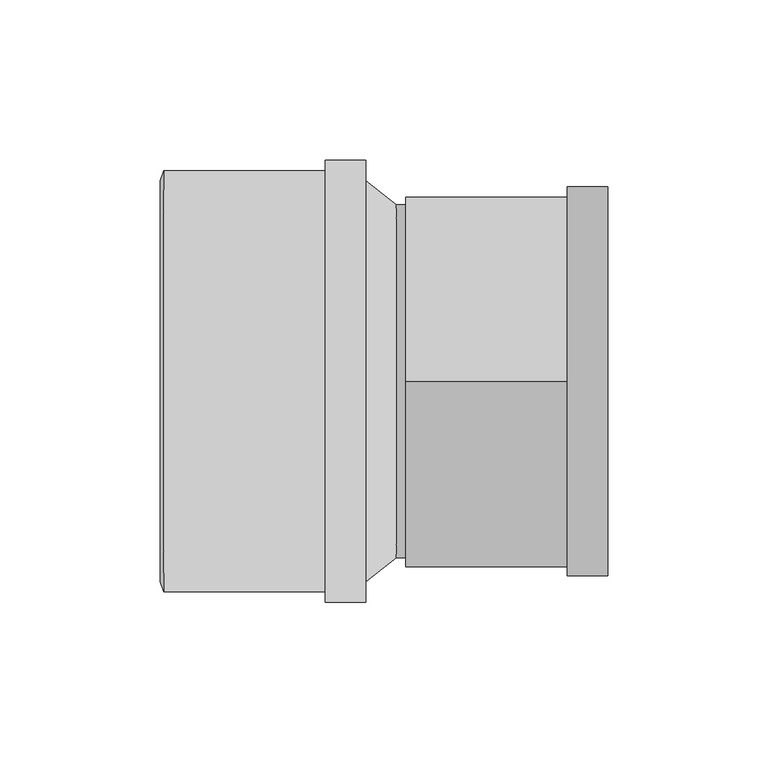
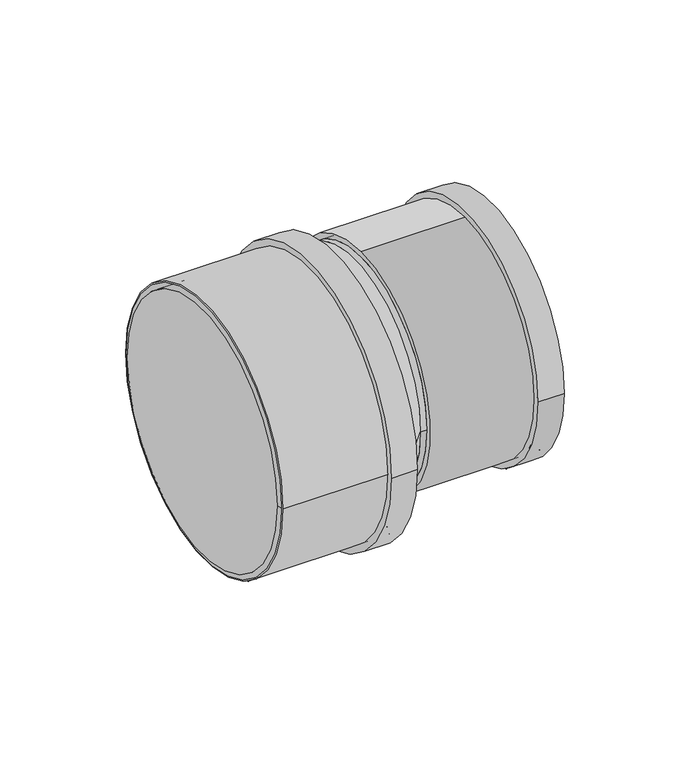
"""IFC4 building model written with IfcOpenShell, lengths in millimetres: pipe fitting geometry, Superdrain HTR-Reducer : Superdrain HTR-Reducer."""

from ifc_helpers import new_model, si_unit, point, frame, frame_2d, origin, origin_2d, place, context, project, spatial, polyline, circle_curve, trimmed, segment, composite_curve, outline, extrude, source, transform, mapped, element, save
from ifc_brep_helpers import plane_surface, revolved_surface, spline_surface, advanced_brep


def pipe_fitting_93a60349(model_context):
    return source(origin(), model_context, "Body", "SolidModel", [
        extrude(outline(composite_curve([segment(trimmed(circle_curve(frame_2d((0.0, 0.1450234)), 65.625), [point((65.625, 0.1450234))], [point((-65.625, 0.1450234))], False, "CARTESIAN"), True, "CONTINUOUS"), segment(trimmed(circle_curve(frame_2d((0.0, 0.1450234)), 65.625), [point((-65.625, 0.1450234))], [point((65.625, 0.1450234))], False, "CARTESIAN"), True, "CONTINUOUS")], self_intersect=False), holes=[composite_curve([segment(trimmed(circle_curve(frame_2d((0.0, 0.1450234)), 62.5), [point((62.5, 0.1450234))], [point((-62.5, 0.1450234))], True, "CARTESIAN"), True, "CONTINUOUS"), segment(trimmed(circle_curve(frame_2d((0.0, 0.1450234)), 62.5), [point((-62.5, 0.1450234))], [point((62.5, 0.1450234))], True, "CARTESIAN"), True, "CONTINUOUS")], self_intersect=False)]), frame((-63.0, 0.0, 0.0), z_axis=(1.0, 0.0, 0.0), x_axis=(0.0, 1.0, 0.0)), (0.0, 0.0, 1.0), 63.0),
        extrude(outline(composite_curve([segment(trimmed(circle_curve(frame_2d((0.0, 0.1450234)), 68.90625), [point((68.90625, 0.1450234))], [point((-68.90625, 0.1450234))], False, "CARTESIAN"), True, "CONTINUOUS"), segment(trimmed(circle_curve(frame_2d((0.0, 0.1450234)), 68.90625), [point((-68.90625, 0.1450234))], [point((68.90625, 0.1450234))], False, "CARTESIAN"), True, "CONTINUOUS")], self_intersect=False), holes=[composite_curve([segment(trimmed(circle_curve(frame_2d((0.0, 0.1450234)), 62.5), [point((62.5, 0.1450234))], [point((-62.5, 0.1450234))], True, "CARTESIAN"), True, "CONTINUOUS"), segment(trimmed(circle_curve(frame_2d((0.0, 0.1450234)), 62.5), [point((-62.5, 0.1450234))], [point((62.5, 0.1450234))], True, "CARTESIAN"), True, "CONTINUOUS")], self_intersect=False)]), frame((-12.6, 0.0, 0.0), z_axis=(1.0, 0.0, 0.0), x_axis=(0.0, 1.0, 0.0)), (0.0, 0.0, 1.0), 12.6),
        advanced_brep(
        [(-64.0, 62.5, 0.1450234), (-64.0, -62.5, 0.1450234), (-63.0, 65.625, 0.1450234), (-63.0, -65.625, 0.1450234)],
        [
            (0, 1, circle_curve(frame((-64.0, 0.0, 0.1450234), z_axis=(-1.0, 0.0, 0.0), x_axis=(0.0, 1.0000000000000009, 0.0)), 62.5)),
            (1, 0, circle_curve(frame((-64.0, 0.0, 0.1450234), z_axis=(-1.0, 0.0, 0.0), x_axis=(0.0, -1.0000000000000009, 0.0)), 62.5)),
            (2, 3, circle_curve(frame((-63.0, 0.0, 0.1450234), z_axis=(1.0, 0.0, 0.0), x_axis=(0.0, -1.0000000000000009, 0.0)), 65.625)),
            (3, 2, circle_curve(frame((-63.0, 0.0, 0.1450234), z_axis=(1.0, 0.0, 0.0), x_axis=(0.0, 1.0000000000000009, 0.0)), 65.625)),
            (3, 1),
            (0, 2),
        ],
        [
            plane_surface(frame((-64.0, 0.0, 0.1450234), z_axis=(-1.0, 0.0, 0.0), x_axis=(0.0, 0.0, -1.0))),
            plane_surface(frame((-63.0, 0.0, 0.1450234), z_axis=(1.0, 0.0, 0.0), x_axis=(0.0, 0.0, -1.0))),
            revolved_surface(polyline([(-64.0, 62.499999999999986, 0.1450234), (-63.0, 65.625, 0.1450234)]), (-84.0, 0.0, 0.1450234), (1.0000000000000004, 0.0, 0.0)),
            revolved_surface(polyline([(-64.0, -62.499999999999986, 0.1450234), (-63.0, -65.625, 0.1450234)]), (-84.0, 0.0, 0.1450234), (1.0000000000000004, 0.0, 0.0)),
        ],
        [
            (0, [[1, 2]]),
            (1, [[3, 4]]),
            (2, [[-4, 5, -1, 6]]),
            (3, [[-3, -6, -2, -5]]),
        ],
    ),
        advanced_brep(
        [(9.5, -55.0, 7.5), (9.5, 55.0, 7.5), (0.0, -62.5, 0.0), (0.0, 62.5, 0.0)],
        [
            (0, 1, circle_curve(frame((9.5, 0.0, 7.5), z_axis=(1.0, 0.0, 0.0), x_axis=(0.0, 1.0, 0.0)), 55.0)),
            (1, 0, circle_curve(frame((9.5, 0.0, 7.5), z_axis=(1.0, 0.0, 0.0), x_axis=(0.0, 1.0, 0.0)), 55.0)),
            (2, 3, circle_curve(frame((0.0, 0.0, 0.0), z_axis=(-1.0, 0.0, 0.0), x_axis=(0.0, 1.0, 0.0)), 62.5)),
            (3, 2, circle_curve(frame((0.0, 0.0, 0.0), z_axis=(-1.0, 0.0, 0.0), x_axis=(0.0, 1.0, 0.0)), 62.5)),
            (3, 1),
            (0, 2),
        ],
        [
            plane_surface(frame((9.5, 0.0, 7.5), z_axis=(1.0, 0.0, 0.0), x_axis=(0.0, 0.0, -1.0))),
            plane_surface(frame((0.0, 0.0, 0.0), z_axis=(-1.0, 0.0, 0.0), x_axis=(0.0, 0.0, -1.0))),
            spline_surface(2, 1, [[(0.0, -62.5, 0.0), (9.5, -55.0, 7.5)], [(0.0, -62.5, -62.5), (9.5, -55.0, -47.5)], [(0.0, 0.0, -62.5), (9.5, 0.0, -47.5)], [(0.0, 62.5, -62.5), (9.5, 55.0, -47.5)], [(0.0, 62.5, 0.0), (9.5, 55.0, 7.5)]], [3, 2, 3], [2, 2], [0.0, 1.0, 2.0], [0.0, 1.0], weights=[[1.0, 1.0], [0.7071067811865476, 0.7071067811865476], [1.0, 1.0], [0.7071067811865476, 0.7071067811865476], [1.0, 1.0]]),
            spline_surface(2, 1, [[(0.0, 62.5, 0.0), (9.5, 55.0, 7.5)], [(0.0, 62.5, 62.5), (9.5, 55.0, 62.5)], [(0.0, 0.0, 62.5), (9.5, 0.0, 62.5)], [(0.0, -62.5, 62.5), (9.5, -55.0, 62.5)], [(0.0, -62.5, 0.0), (9.5, -55.0, 7.5)]], [3, 2, 3], [2, 2], [0.0, 1.0, 2.0], [0.0, 1.0], weights=[[1.0, 1.0], [0.7071067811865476, 0.7071067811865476], [1.0, 1.0], [0.7071067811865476, 0.7071067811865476], [1.0, 1.0]]),
        ],
        [
            (0, [[1, 2]]),
            (1, [[3, 4]]),
            (2, [[-4, 5, -1, 6]]),
            (3, [[-3, -6, -2, -5]]),
        ],
    ),
        extrude(outline(composite_curve([segment(trimmed(circle_curve(frame_2d((0.0, 7.5)), 55.0), [point((-55.0, 7.5))], [point((55.0, 7.5))], False, "CARTESIAN"), True, "CONTINUOUS"), segment(trimmed(circle_curve(frame_2d((0.0, 7.5)), 55.0), [point((55.0, 7.5))], [point((-55.0, 7.5))], False, "CARTESIAN"), True, "CONTINUOUS")], self_intersect=False)), frame((9.5, 0.0, 0.0), z_axis=(1.0, 0.0, 0.0), x_axis=(0.0, 1.0, 0.0)), (0.0, 0.0, 1.0), 3.0),
        extrude(outline(composite_curve([segment(trimmed(circle_curve(frame_2d((0.0, 7.5)), 60.6375), [point((-60.6375, 7.5))], [point((60.6375, 7.5))], False, "CARTESIAN"), True, "CONTINUOUS"), segment(trimmed(circle_curve(frame_2d((0.0, 7.5)), 60.6375), [point((60.6375, 7.5))], [point((-60.6375, 7.5))], False, "CARTESIAN"), True, "CONTINUOUS")], self_intersect=False), holes=[composite_curve([segment(trimmed(circle_curve(frame_2d((0.0, 7.5)), 55.0), [point((55.0, 7.5))], [point((-55.0, 7.5))], True, "CARTESIAN"), True, "CONTINUOUS"), segment(trimmed(circle_curve(frame_2d((0.0, 7.5)), 55.0), [point((-55.0, 7.5))], [point((55.0, 7.5))], True, "CARTESIAN"), True, "CONTINUOUS")], self_intersect=False)]), frame((62.9, 0.0, 0.0), z_axis=(1.0, 0.0, 0.0), x_axis=(0.0, 1.0, 0.0)), (0.0, 0.0, 1.0), 12.6),
        extrude(outline(composite_curve([segment(trimmed(circle_curve(frame_2d((0.0, 7.5)), 57.75), [point((0.0, 65.25))], [point((0.0, -50.25))], False, "CARTESIAN"), True, "CONTINUOUS"), segment(trimmed(circle_curve(frame_2d((0.0, 7.5)), 57.75), [point((0.0, -50.25))], [point((0.0, 65.25))], False, "CARTESIAN"), True, "CONTINUOUS")], self_intersect=False), holes=[composite_curve([segment(trimmed(circle_curve(frame_2d((0.0, 7.5)), 55.0), [point((55.0, 7.5))], [point((-55.0, 7.5))], True, "CARTESIAN"), True, "CONTINUOUS"), segment(trimmed(circle_curve(frame_2d((0.0, 7.5)), 55.0), [point((-55.0, 7.5))], [point((55.0, 7.5))], True, "CARTESIAN"), True, "CONTINUOUS")], self_intersect=False)]), frame((12.5, 0.0, 0.0), z_axis=(1.0, 0.0, 0.0), x_axis=(0.0, 1.0, 0.0)), (0.0, 0.0, 1.0), 63.0),
        extrude(outline(composite_curve([segment(trimmed(circle_curve(origin_2d(), 62.5), [point((0.0, 62.5))], [point((0.0, -62.5))], False, "CARTESIAN"), True, "CONTINUOUS"), segment(trimmed(circle_curve(origin_2d(), 62.5), [point((0.0, -62.5))], [point((0.0, 62.5))], False, "CARTESIAN"), True, "CONTINUOUS")], self_intersect=False)), frame((-63.0, 0.0, 0.0), z_axis=(1.0, 0.0, 0.0), x_axis=(0.0, 1.0, 0.0)), (0.0, 0.0, 1.0), 63.0),
    ])


if __name__ == "__main__":
    model = new_model("IFC4")
    model_context = context("Model", 3, world=origin())
    ifc_project = project(units=[si_unit("LENGTHUNIT", "METRE", prefix="MILLI")], contexts=[model_context])
    site = spatial("IfcSite", under=ifc_project)
    building = spatial("IfcBuilding", under=site)
    placement = place(None, origin())
    pipe_fitting_shape = pipe_fitting_93a60349(model_context)
    element("IfcPipeFitting", 1, ObjectType="Superdrain HTR-Reducer : Superdrain HTR-Reducer", at=placement, inside=building, context=model_context, shape_type="MappedRepresentation", body=[
        mapped(pipe_fitting_shape, transform((0.0, 0.0, 0.0), x_axis=(1.0, 0.0, 0.0), y_axis=(0.0, 1.0, 0.0), z_axis=(0.0, 0.0, 1.0))),
    ])
    save(model, "model.ifc")
